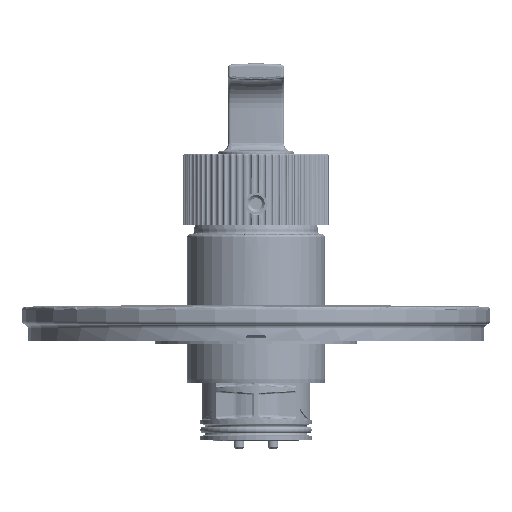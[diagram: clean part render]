
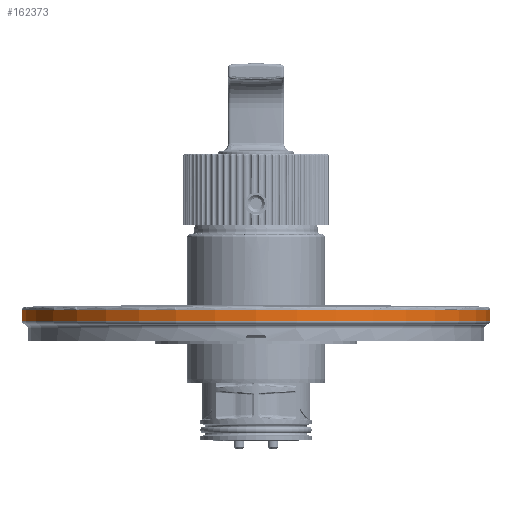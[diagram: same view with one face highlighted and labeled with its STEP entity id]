
A CAD part, front view. The second image highlights one B-rep face of the part: STEP entity #162373.
In plain terms, the highlighted conical face has half-angle 1 degrees and reference radius 83.876 mm.
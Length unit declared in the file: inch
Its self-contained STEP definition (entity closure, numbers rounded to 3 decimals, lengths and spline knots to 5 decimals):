
#4664 = CARTESIAN_POINT ( 'NONE',  ( 3.3022, 0.676, 0.27579 ) ) ;
#10309 = CIRCLE ( 'NONE', #61313, 3.2994 ) ;
#13609 = LINE ( 'NONE', #233254, #174121 ) ;
#33878 = CARTESIAN_POINT ( 'NONE',  ( -3.3022, 0.676, 0.27579 ) ) ;
#36464 = CARTESIAN_POINT ( 'NONE',  ( -3.3022, 0.676, 0.27579 ) ) ;
#54162 = DIRECTION ( 'NONE',  ( 0., 0., 1. ) ) ;
#55248 = VERTEX_POINT ( 'NONE', #36464 ) ;
#61313 = AXIS2_PLACEMENT_3D ( 'NONE', #255091, #167115, #232981 ) ;
#65978 = EDGE_CURVE ( 'NONE', #138823, #324529, #13609, .T. ) ;
#75773 = CARTESIAN_POINT ( 'NONE',  ( 3.2994, 0.676, 0.43638 ) ) ;
#82539 = ORIENTED_EDGE ( 'NONE', *, *, #65978, .T. ) ;
#84774 = ORIENTED_EDGE ( 'NONE', *, *, #379840, .T. ) ;
#88129 = DIRECTION ( 'NONE',  ( -1., 0., 0. ) ) ;
#93849 = LINE ( 'NONE', #33878, #306045 ) ;
#105477 = DIRECTION ( 'NONE',  ( -0.017, 0., 1. ) ) ;
#138823 = VERTEX_POINT ( 'NONE', #4664 ) ;
#152012 = DIRECTION ( 'NONE',  ( 0., 0., -1. ) ) ;
#162373 = ADVANCED_FACE ( 'NONE', ( #301919 ), #260031, .T. ) ;
#164204 = AXIS2_PLACEMENT_3D ( 'NONE', #339751, #152012, #213917 ) ;
#167115 = DIRECTION ( 'NONE',  ( 0., 0., 1. ) ) ;
#172851 = VERTEX_POINT ( 'NONE', #281867 ) ;
#174121 = VECTOR ( 'NONE', #105477, 39.37008 ) ;
#180002 = CARTESIAN_POINT ( 'NONE',  ( 0., 0.676, 0.27579 ) ) ;
#211763 = DIRECTION ( 'NONE',  ( 0.017, 0., 1. ) ) ;
#213917 = DIRECTION ( 'NONE',  ( -1., 0., 0. ) ) ;
#230071 = EDGE_CURVE ( 'NONE', #55248, #172851, #93849, .T. ) ;
#231521 = CIRCLE ( 'NONE', #237811, 3.3022 ) ;
#232981 = DIRECTION ( 'NONE',  ( -1., 0., 0. ) ) ;
#233254 = CARTESIAN_POINT ( 'NONE',  ( 3.3022, 0.676, 0.27579 ) ) ;
#237811 = AXIS2_PLACEMENT_3D ( 'NONE', #180002, #54162, #88129 ) ;
#255091 = CARTESIAN_POINT ( 'NONE',  ( 0., 0.676, 0.43638 ) ) ;
#257478 = EDGE_CURVE ( 'NONE', #172851, #324529, #10309, .T. ) ;
#260031 = CONICAL_SURFACE ( 'NONE', #164204, 3.3022, 0.017 ) ;
#281867 = CARTESIAN_POINT ( 'NONE',  ( -3.2994, 0.676, 0.43638 ) ) ;
#301919 = FACE_OUTER_BOUND ( 'NONE', #376066, .T. ) ;
#306045 = VECTOR ( 'NONE', #211763, 39.37008 ) ;
#324529 = VERTEX_POINT ( 'NONE', #75773 ) ;
#332505 = ORIENTED_EDGE ( 'NONE', *, *, #230071, .F. ) ;
#339751 = CARTESIAN_POINT ( 'NONE',  ( 0., 0.676, 0.27579 ) ) ;
#356547 = ORIENTED_EDGE ( 'NONE', *, *, #257478, .F. ) ;
#376066 = EDGE_LOOP ( 'NONE', ( #356547, #332505, #84774, #82539 ) ) ;
#379840 = EDGE_CURVE ( 'NONE', #55248, #138823, #231521, .T. ) ;
